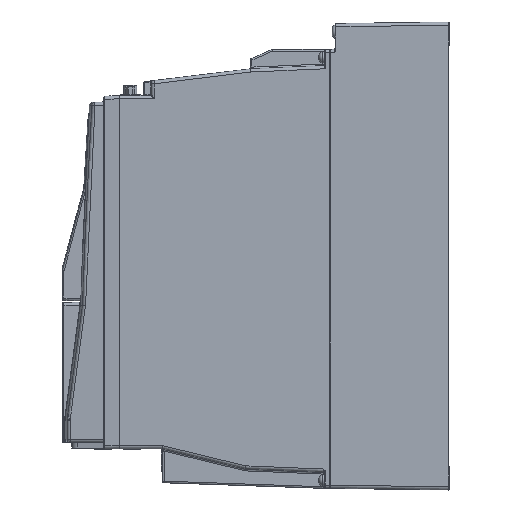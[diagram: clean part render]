
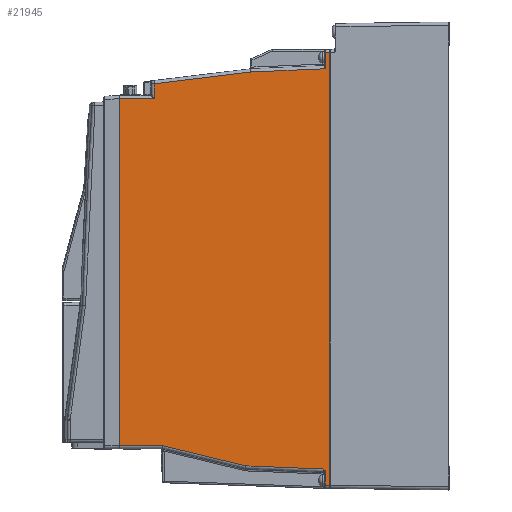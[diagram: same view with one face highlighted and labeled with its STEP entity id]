
A CAD part, left-side view. The second image highlights one B-rep face of the part: STEP entity #21945.
In plain terms, the highlighted planar face has unit normal (-1, 0, 0).
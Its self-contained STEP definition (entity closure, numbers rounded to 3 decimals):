
#118 = DIRECTION ( 'NONE',  ( 0., 0., -1. ) ) ;
#630 = CARTESIAN_POINT ( 'NONE',  ( -64., 202.8, -47.5 ) ) ;
#1437 = EDGE_CURVE ( 'NONE', #10367, #7273, #42375, .T. ) ;
#1622 = LINE ( 'NONE', #35011, #33099 ) ;
#2016 = EDGE_CURVE ( 'NONE', #32408, #26348, #15950, .T. ) ;
#3203 = CARTESIAN_POINT ( 'NONE',  ( -64., 122.835, -30.995 ) ) ;
#3532 = EDGE_CURVE ( 'NONE', #27301, #46385, #23172, .T. ) ;
#4506 = CARTESIAN_POINT ( 'NONE',  ( -64., 182.5, -38.271 ) ) ;
#4609 = VERTEX_POINT ( 'NONE', #3203 ) ;
#4665 = ORIENTED_EDGE ( 'NONE', *, *, #36752, .T. ) ;
#5050 = CARTESIAN_POINT ( 'NONE',  ( -64., 73.67, -19. ) ) ;
#5113 = LINE ( 'NONE', #25194, #5790 ) ;
#5287 = DIRECTION ( 'NONE',  ( 0., 0., -1. ) ) ;
#5398 = CARTESIAN_POINT ( 'NONE',  ( -64., 76.733, -278.099 ) ) ;
#5790 = VECTOR ( 'NONE', #17181, 1000. ) ;
#6169 = VECTOR ( 'NONE', #15385, 1000. ) ;
#6244 = LINE ( 'NONE', #21729, #46468 ) ;
#6523 = CARTESIAN_POINT ( 'NONE',  ( -64., 76.5, -289. ) ) ;
#6944 = VECTOR ( 'NONE', #9860, 1000. ) ;
#7273 = VERTEX_POINT ( 'NONE', #41573 ) ;
#7480 = CARTESIAN_POINT ( 'NONE',  ( -64., 125.536, -275.09 ) ) ;
#8547 = CARTESIAN_POINT ( 'NONE',  ( -64., 202.8, -262.5 ) ) ;
#9141 = ORIENTED_EDGE ( 'NONE', *, *, #9854, .T. ) ;
#9154 = CARTESIAN_POINT ( 'NONE',  ( -64., 202.8, -287. ) ) ;
#9235 = LINE ( 'NONE', #27632, #44477 ) ;
#9709 = CARTESIAN_POINT ( 'NONE',  ( -64., 76.5, -19. ) ) ;
#9727 = ORIENTED_EDGE ( 'NONE', *, *, #31767, .T. ) ;
#9854 = EDGE_CURVE ( 'NONE', #41832, #43680, #9235, .T. ) ;
#9860 = DIRECTION ( 'NONE',  ( 0., 0.993, -0.121 ) ) ;
#10367 = VERTEX_POINT ( 'NONE', #37846 ) ;
#10541 = VERTEX_POINT ( 'NONE', #24779 ) ;
#10966 = PLANE ( 'NONE',  #19672 ) ;
#11015 = LINE ( 'NONE', #43896, #6169 ) ;
#11347 = VECTOR ( 'NONE', #22009, 1000. ) ;
#12118 = VECTOR ( 'NONE', #37905, 1000. ) ;
#12191 = CARTESIAN_POINT ( 'NONE',  ( -64., 77.259, -277.308 ) ) ;
#12471 = ORIENTED_EDGE ( 'NONE', *, *, #28770, .T. ) ;
#12581 = EDGE_CURVE ( 'NONE', #32408, #37661, #11015, .T. ) ;
#13285 = VERTEX_POINT ( 'NONE', #37510 ) ;
#13685 = CARTESIAN_POINT ( 'NONE',  ( -64., 73.67, -287. ) ) ;
#14612 = FACE_OUTER_BOUND ( 'NONE', #34507, .T. ) ;
#14848 = DIRECTION ( 'NONE',  ( 0., 0., -1. ) ) ;
#15385 = DIRECTION ( 'NONE',  ( 0., 1., 0. ) ) ;
#15950 = LINE ( 'NONE', #5050, #37463 ) ;
#16648 = DIRECTION ( 'NONE',  ( 0., 0., 1. ) ) ;
#17181 = DIRECTION ( 'NONE',  ( 0., 0.999, -0.043 ) ) ;
#17490 = VECTOR ( 'NONE', #30209, 1000. ) ;
#17786 = CARTESIAN_POINT ( 'NONE',  ( -64., 76.5, -28.98 ) ) ;
#17827 = ORIENTED_EDGE ( 'NONE', *, *, #26884, .F. ) ;
#17833 = LINE ( 'NONE', #29436, #21492 ) ;
#18958 = CARTESIAN_POINT ( 'NONE',  ( -64., 202.8, -289. ) ) ;
#19093 = LINE ( 'NONE', #7480, #17490 ) ;
#19672 = AXIS2_PLACEMENT_3D ( 'NONE', #18958, #33711, #14848 ) ;
#20165 = CARTESIAN_POINT ( 'NONE',  ( -64., 76.652, -278.27 ) ) ;
#20602 = CARTESIAN_POINT ( 'NONE',  ( -64., 73.67, -19. ) ) ;
#20775 = DIRECTION ( 'NONE',  ( 0., 0., -1. ) ) ;
#20953 = CARTESIAN_POINT ( 'NONE',  ( -64., 182.5, -47.5 ) ) ;
#21492 = VECTOR ( 'NONE', #118, 1000. ) ;
#21729 = CARTESIAN_POINT ( 'NONE',  ( -64., 76.5, -289. ) ) ;
#21945 = ADVANCED_FACE ( 'NONE', ( #14612 ), #10966, .F. ) ;
#21998 = ORIENTED_EDGE ( 'NONE', *, *, #3532, .T. ) ;
#22009 = DIRECTION ( 'NONE',  ( 0., 0., -1. ) ) ;
#22346 = ORIENTED_EDGE ( 'NONE', *, *, #40403, .T. ) ;
#23172 = LINE ( 'NONE', #630, #12118 ) ;
#23456 = VERTEX_POINT ( 'NONE', #17786 ) ;
#23547 = EDGE_CURVE ( 'NONE', #10541, #26348, #39765, .T. ) ;
#23759 = EDGE_CURVE ( 'NONE', #43680, #13285, #24562, .T. ) ;
#24043 = DIRECTION ( 'NONE',  ( 0., -1., 0. ) ) ;
#24045 = CARTESIAN_POINT ( 'NONE',  ( -64., 76.5, -279.014 ) ) ;
#24562 = B_SPLINE_CURVE_WITH_KNOTS ( 'NONE', 3,
 ( #41652, #12191, #30572, #5398, #20165, #34434, #45278, #24045 ),
 .UNSPECIFIED., .F., .F.,
 ( 4, 2, 2, 4 ),
 ( 0., 0.001, 0.002, 0.002 ),
 .UNSPECIFIED. ) ;
#24696 = LINE ( 'NONE', #6523, #11347 ) ;
#24779 = CARTESIAN_POINT ( 'NONE',  ( -64., 76.5, -287. ) ) ;
#25194 = CARTESIAN_POINT ( 'NONE',  ( -64., 213.846, -34.952 ) ) ;
#26105 = EDGE_CURVE ( 'NONE', #27291, #27301, #17833, .T. ) ;
#26348 = VERTEX_POINT ( 'NONE', #13685 ) ;
#26884 = EDGE_CURVE ( 'NONE', #10367, #46385, #1622, .T. ) ;
#27291 = VERTEX_POINT ( 'NONE', #4506 ) ;
#27301 = VERTEX_POINT ( 'NONE', #20953 ) ;
#27632 = CARTESIAN_POINT ( 'NONE',  ( -64., 76.92, -277.036 ) ) ;
#27782 = LINE ( 'NONE', #42978, #6944 ) ;
#27862 = DIRECTION ( 'NONE',  ( 0., -0.999, -0.041 ) ) ;
#28770 = EDGE_CURVE ( 'NONE', #4609, #27291, #27782, .T. ) ;
#29436 = CARTESIAN_POINT ( 'NONE',  ( -64., 182.5, -289. ) ) ;
#29591 = ORIENTED_EDGE ( 'NONE', *, *, #2016, .F. ) ;
#30209 = DIRECTION ( 'NONE',  ( 0., -0.972, -0.236 ) ) ;
#30572 = CARTESIAN_POINT ( 'NONE',  ( -64., 77.016, -277.606 ) ) ;
#30714 = CARTESIAN_POINT ( 'NONE',  ( -64., 125.725, -275.044 ) ) ;
#31767 = EDGE_CURVE ( 'NONE', #13285, #10541, #6244, .T. ) ;
#32179 = VECTOR ( 'NONE', #38643, 1000. ) ;
#32408 = VERTEX_POINT ( 'NONE', #20602 ) ;
#33099 = VECTOR ( 'NONE', #16648, 1000. ) ;
#33705 = ORIENTED_EDGE ( 'NONE', *, *, #1437, .T. ) ;
#33711 = DIRECTION ( 'NONE',  ( 1., 0., 0. ) ) ;
#34434 = CARTESIAN_POINT ( 'NONE',  ( -64., 76.535, -278.634 ) ) ;
#34507 = EDGE_LOOP ( 'NONE', ( #35890, #29591, #36083, #22346, #39980, #12471, #40607, #21998, #17827, #33705, #4665, #9141, #36715, #9727 ) ) ;
#35011 = CARTESIAN_POINT ( 'NONE',  ( -64., 204.2, -262.5 ) ) ;
#35890 = ORIENTED_EDGE ( 'NONE', *, *, #23547, .T. ) ;
#36083 = ORIENTED_EDGE ( 'NONE', *, *, #12581, .T. ) ;
#36715 = ORIENTED_EDGE ( 'NONE', *, *, #23759, .T. ) ;
#36752 = EDGE_CURVE ( 'NONE', #7273, #41832, #19093, .T. ) ;
#37463 = VECTOR ( 'NONE', #5287, 1000. ) ;
#37510 = CARTESIAN_POINT ( 'NONE',  ( -64., 76.5, -279.014 ) ) ;
#37595 = CARTESIAN_POINT ( 'NONE',  ( -64., 204.2, -47.5 ) ) ;
#37661 = VERTEX_POINT ( 'NONE', #9709 ) ;
#37846 = CARTESIAN_POINT ( 'NONE',  ( -64., 204.2, -262.5 ) ) ;
#37905 = DIRECTION ( 'NONE',  ( 0., 1., 0. ) ) ;
#38588 = VECTOR ( 'NONE', #24043, 1000. ) ;
#38643 = DIRECTION ( 'NONE',  ( 0., -1., 0. ) ) ;
#39765 = LINE ( 'NONE', #9154, #32179 ) ;
#39980 = ORIENTED_EDGE ( 'NONE', *, *, #46951, .T. ) ;
#40403 = EDGE_CURVE ( 'NONE', #37661, #23456, #24696, .T. ) ;
#40607 = ORIENTED_EDGE ( 'NONE', *, *, #26105, .T. ) ;
#41573 = CARTESIAN_POINT ( 'NONE',  ( -64., 177.407, -262.5 ) ) ;
#41652 = CARTESIAN_POINT ( 'NONE',  ( -64., 77.5, -277.013 ) ) ;
#41832 = VERTEX_POINT ( 'NONE', #30714 ) ;
#42375 = LINE ( 'NONE', #8547, #38588 ) ;
#42978 = CARTESIAN_POINT ( 'NONE',  ( -64., 232.631, -44.384 ) ) ;
#43680 = VERTEX_POINT ( 'NONE', #44657 ) ;
#43896 = CARTESIAN_POINT ( 'NONE',  ( -64., 202.8, -19. ) ) ;
#44477 = VECTOR ( 'NONE', #27862, 1000. ) ;
#44657 = CARTESIAN_POINT ( 'NONE',  ( -64., 77.5, -277.013 ) ) ;
#45278 = CARTESIAN_POINT ( 'NONE',  ( -64., 76.5, -278.822 ) ) ;
#46385 = VERTEX_POINT ( 'NONE', #37595 ) ;
#46468 = VECTOR ( 'NONE', #20775, 1000. ) ;
#46951 = EDGE_CURVE ( 'NONE', #23456, #4609, #5113, .T. ) ;
